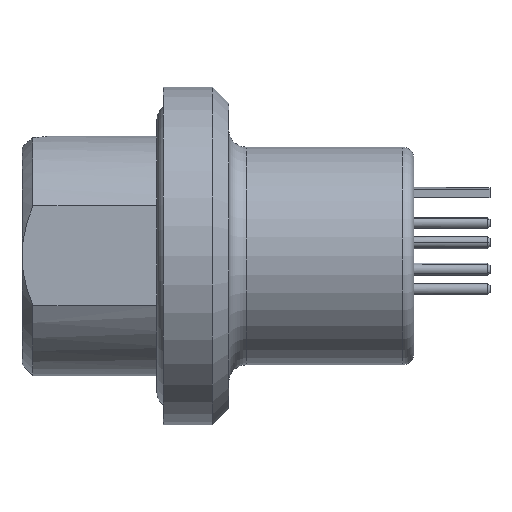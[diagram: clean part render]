
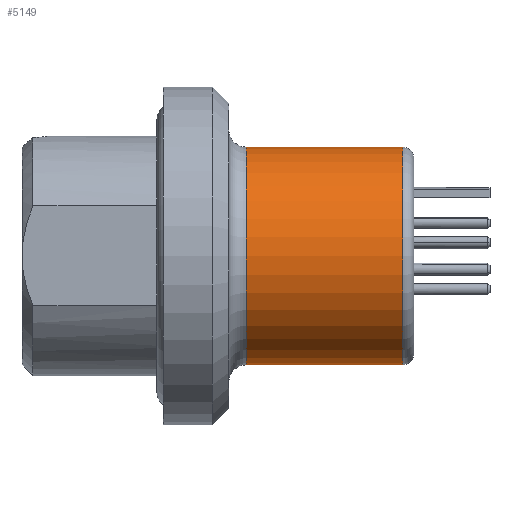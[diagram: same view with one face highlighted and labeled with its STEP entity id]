
A CAD part, top view. The second image highlights one B-rep face of the part: STEP entity #5149.
In plain terms, the highlighted cylindrical face has radius 5 mm (diameter 10 mm), a partial arc.
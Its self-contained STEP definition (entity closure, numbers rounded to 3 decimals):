
#1157=CARTESIAN_POINT('',(-1.7,0.,0.));
#1158=DIRECTION('',(1.,0.,0.));
#1159=DIRECTION('',(0.,1.,0.));
#1160=AXIS2_PLACEMENT_3D('',#1157,#1158,#1159);
#1167=DIRECTION('',(-1.,0.,0.));
#1168=VECTOR('',#1167,7.2);
#1169=CARTESIAN_POINT('',(5.5,-5.,0.));
#1170=LINE('',#1169,#1168);
#1171=CARTESIAN_POINT('',(5.5,0.,0.));
#1172=DIRECTION('',(-1.,0.,0.));
#1173=DIRECTION('',(0.,-1.,0.));
#1174=AXIS2_PLACEMENT_3D('',#1171,#1172,#1173);
#1211=DIRECTION('',(-1.,0.,0.));
#1212=VECTOR('',#1211,7.2);
#1213=CARTESIAN_POINT('',(5.5,5.,0.));
#1214=LINE('',#1213,#1212);
#2664=CARTESIAN_POINT('',(5.5,-5.,0.));
#2665=VERTEX_POINT('',#2664);
#2666=CARTESIAN_POINT('',(5.5,5.,0.));
#2667=VERTEX_POINT('',#2666);
#2668=CARTESIAN_POINT('',(-1.7,5.,0.));
#2669=VERTEX_POINT('',#2668);
#2670=CARTESIAN_POINT('',(-1.7,-5.,0.));
#2671=VERTEX_POINT('',#2670);
#5135=CARTESIAN_POINT('',(6.9,0.,0.));
#5136=DIRECTION('',(-1.,0.,0.));
#5137=DIRECTION('',(0.,-1.,0.));
#5138=AXIS2_PLACEMENT_3D('',#5135,#5136,#5137);
#5139=CYLINDRICAL_SURFACE('',#5138,5.);
#5141=ORIENTED_EDGE('',*,*,#5140,.F.);
#5143=ORIENTED_EDGE('',*,*,#5142,.T.);
#5144=ORIENTED_EDGE('',*,*,#5118,.F.);
#5146=ORIENTED_EDGE('',*,*,#5145,.F.);
#5147=EDGE_LOOP('',(#5141,#5143,#5144,#5146));
#5148=FACE_OUTER_BOUND('',#5147,.F.);
#1161=CIRCLE('',#1160,5.);
#1175=CIRCLE('',#1174,5.);
#5118=EDGE_CURVE('',#2669,#2671,#1161,.T.);
#5140=EDGE_CURVE('',#2665,#2667,#1175,.T.);
#5142=EDGE_CURVE('',#2665,#2671,#1170,.T.);
#5145=EDGE_CURVE('',#2667,#2669,#1214,.T.);
#5149=ADVANCED_FACE('',(#5148),#5139,.T.);
